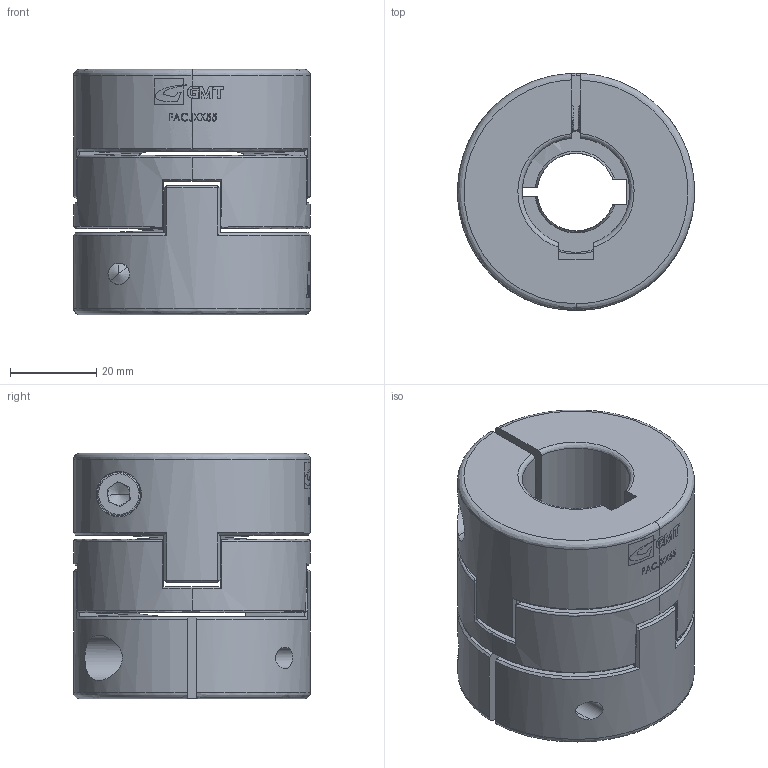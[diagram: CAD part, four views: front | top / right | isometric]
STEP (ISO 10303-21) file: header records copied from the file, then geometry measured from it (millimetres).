
FILE_DESCRIPTION (( 'STEP AP203' ), '1' );
FILE_NAME ('FACJWK55.STEP', '2008-04-04T08:54:09', ( '陳志豪' ), ( '高明鐵企業股份有限公司' ), 'SwSTEP 2.0', 'SolidWorks 2007', '' );
FILE_SCHEMA (( 'CONFIG_CONTROL_DESIGN' ));
Length unit declared in the file: millimetre
Products named in the file (1): FACJWK55
Bounding box: 55 x 55 x 57 mm (x, y, z)
Surface area: 27848.2 mm2 (no closed solid volume)
Topology: 0 solids, 7 shells, 286 faces, 963 edges, 684 vertices
Faces by surface type: plane 132, bspline 65, cylinder 57, cone 32
Entity records: 15542 total; most frequent: CARTESIAN_POINT 8455, ORIENTED_EDGE 1804, EDGE_CURVE 948, DIRECTION 871, VERTEX_POINT 676, B_SPLINE_CURVE_WITH_KNOTS 590, EDGE_LOOP 320, AXIS2_PLACEMENT_3D 301
